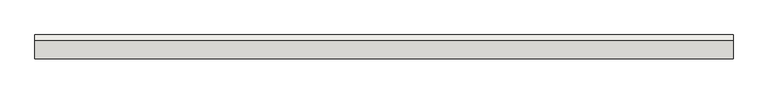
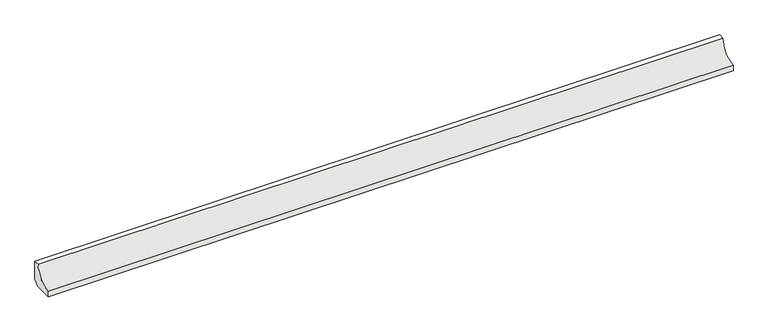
"""IFC4 building model written with IfcOpenShell, lengths in millimetres: slab geometry, ROSA GRES_188 : Pieza 188_Tao_Beige_Liso."""

import ifcopenshell
import ifcopenshell.guid

model = None  # the IFC model being written
_history = None  # IfcOwnerHistory: only IFC2X3 demands one
_inside = {}  # id of a spatial element -> (the spatial element, [elements in it])
_under = {}  # id of a project, library or spatial element -> (it, [spatial elements below it])
_declared = {}  # id of a project -> (the project, [libraries it declares])
_typed = {}  # id of a type object -> (the type object, [elements of that type])
_made_of = {}  # id of a material, layer set ... -> (it, [elements and type objects made of it])


def new_model(schema):
    """Start an empty IFC model of exactly this schema.

    Asked for "IFC4X3", IfcOpenShell would pick the latest addendum, in which some entities
    have other attributes; the version numbers below select the first issue.
    IFC2X3 requires an IfcOwnerHistory on every rooted entity: one is made here for all.
    """
    global model, _history
    if schema == "IFC4X3":
        model = ifcopenshell.file(schema_version=(4, 3, 0, 0))
    else:
        model = ifcopenshell.file(schema=schema)
    _inside.clear()
    _under.clear()
    _declared.clear()
    _typed.clear()
    _made_of.clear()
    _history = None
    if model.schema == "IFC2X3":
        org = make("IfcOrganization", Name="unknown")
        user = make(
            "IfcPersonAndOrganization",
            ThePerson=make("IfcPerson", FamilyName="unknown"),
            TheOrganization=org,
        )
        app = make(
            "IfcApplication",
            ApplicationDeveloper=org,
            Version="unknown",
            ApplicationFullName="unknown",
            ApplicationIdentifier="unknown",
        )
        _history = make(
            "IfcOwnerHistory",
            OwningUser=user,
            OwningApplication=app,
            ChangeAction="ADDED",
            CreationDate=0,
        )
    return model


def make(cls, **values):
    """One entity of the class cls with the attributes given. An attribute that is None is left unset."""
    return model.create_entity(
        cls, **{name: value for name, value in values.items() if value is not None}
    )


def rooted(cls, **values):
    """An entity with a GlobalId (a new one), such as an element, a storey or a relation."""
    return make(cls, GlobalId=ifcopenshell.guid.new(), OwnerHistory=_history, **values)


def si_unit(unit_type, name, prefix=None):
    """IfcSIUnit, for example si_unit("LENGTHUNIT", "METRE", prefix="MILLI")."""
    return make("IfcSIUnit", UnitType=unit_type, Prefix=prefix, Name=name)


def assignment(units):
    """IfcUnitAssignment: the units of a project."""
    return None if units is None else make("IfcUnitAssignment", Units=units)


def point(xyz):
    """IfcCartesianPoint."""
    return None if xyz is None else make("IfcCartesianPoint", Coordinates=xyz)


def direction(xyz):
    """IfcDirection."""
    return None if xyz is None else make("IfcDirection", DirectionRatios=xyz)


def frame(location, z_axis=None, x_axis=None):
    """IfcAxis2Placement3D, a coordinate frame: its origin and axes. An axis left out is left unset."""
    return make(
        "IfcAxis2Placement3D",
        Location=point(location),
        Axis=direction(z_axis),
        RefDirection=direction(x_axis),
    )


def frame_2d(location, x_axis=None):
    """IfcAxis2Placement2D, a coordinate frame in the plane: its origin and x axis."""
    return make(
        "IfcAxis2Placement2D", Location=point(location), RefDirection=direction(x_axis)
    )


def origin():
    """The frame at (0, 0, 0) with its axes left unset."""
    return frame((0.0, 0.0, 0.0))


def place(relative_to, where):
    """IfcLocalPlacement: puts the frame where relative to a parent placement (None: the world)."""
    return make(
        "IfcLocalPlacement", PlacementRelTo=relative_to, RelativePlacement=where
    )


def context(
    kind, dimensions, precision=None, world=None, true_north=None, identifier=None
):
    """IfcGeometricRepresentationContext, for example the 3D "Model" context."""
    return make(
        "IfcGeometricRepresentationContext",
        ContextIdentifier=identifier,
        ContextType=kind,
        CoordinateSpaceDimension=dimensions,
        Precision=precision,
        WorldCoordinateSystem=world,
        TrueNorth=true_north,
    )


def project(units=None, contexts=None):
    """IfcProject with its units and contexts."""
    return rooted(
        "IfcProject",
        Name="project",
        RepresentationContexts=contexts,
        UnitsInContext=assignment(units),
    )


def spatial(cls, under=None, at=None, **own):
    """A site, building, storey or space (cls), placed at a placement, below another one or the project."""
    s = rooted(cls, ObjectPlacement=at, **own)
    if under is not None:
        _under.setdefault(under.id(), (under, []))[1].append(s)
    return s


def polyline(points):
    """IfcPolyline through the points."""
    return make("IfcPolyline", Points=[point(p) for p in points])


def circle_curve(where, radius):
    """IfcCircle in the frame where."""
    return make("IfcCircle", Position=where, Radius=radius)


def trimmed(basis, trim1, trim2, sense, master):
    """IfcTrimmedCurve: the piece of a basis curve between two trims."""
    return make(
        "IfcTrimmedCurve",
        BasisCurve=basis,
        Trim1=trim1,
        Trim2=trim2,
        SenseAgreement=sense,
        MasterRepresentation=master,
    )


def segment(curve, same_sense, transition):
    """IfcCompositeCurveSegment."""
    return make(
        "IfcCompositeCurveSegment",
        Transition=transition,
        SameSense=same_sense,
        ParentCurve=curve,
    )


def composite_curve(segments, self_intersect=None):
    """IfcCompositeCurve: segments joined end to end."""
    return make("IfcCompositeCurve", Segments=segments, SelfIntersect=self_intersect)


def outline(outer, holes=None, kind="AREA"):
    """IfcArbitraryClosedProfileDef: a profile drawn as a closed curve; with holes, ...WithVoids."""
    if holes is None:
        return make("IfcArbitraryClosedProfileDef", ProfileType=kind, OuterCurve=outer)
    return make(
        "IfcArbitraryProfileDefWithVoids",
        ProfileType=kind,
        OuterCurve=outer,
        InnerCurves=holes,
    )


def extrude(swept, where, along, depth):
    """IfcExtrudedAreaSolid: the profile swept, set in the frame where, extruded along a direction by depth."""
    return make(
        "IfcExtrudedAreaSolid",
        SweptArea=swept,
        Position=where,
        ExtrudedDirection=direction(along),
        Depth=depth,
    )


def shape(context_of_items, identifier, shape_type, items):
    """IfcShapeRepresentation: the items that make up one representation, for example the "Body"."""
    return make(
        "IfcShapeRepresentation",
        ContextOfItems=context_of_items,
        RepresentationIdentifier=identifier,
        RepresentationType=shape_type,
        Items=items,
    )


def source(mapping_origin, context_of_items, identifier, shape_type, items):
    """IfcRepresentationMap: a shape defined once, which mapped items show again and again."""
    return make(
        "IfcRepresentationMap",
        MappingOrigin=mapping_origin,
        MappedRepresentation=shape(context_of_items, identifier, shape_type, items),
    )


def transform(
    local_origin,
    x_axis=None,
    y_axis=None,
    z_axis=None,
    scale=None,
    scale2=None,
    scale3=None,
    uniform=True,
):
    """IfcCartesianTransformationOperator3D, or its non-uniform kind. x_axis, y_axis, z_axis: its Axis1, 2, 3."""
    if uniform:
        return make(
            "IfcCartesianTransformationOperator3D",
            Axis1=direction(x_axis),
            Axis2=direction(y_axis),
            LocalOrigin=point(local_origin),
            Scale=scale,
            Axis3=direction(z_axis),
        )
    return make(
        "IfcCartesianTransformationOperator3DnonUniform",
        Axis1=direction(x_axis),
        Axis2=direction(y_axis),
        LocalOrigin=point(local_origin),
        Scale=scale,
        Axis3=direction(z_axis),
        Scale2=scale2,
        Scale3=scale3,
    )


def mapped(mapping_source, mapping_target):
    """IfcMappedItem: shows the shape of a source again, moved by a transform."""
    return make(
        "IfcMappedItem", MappingSource=mapping_source, MappingTarget=mapping_target
    )


def made_of(thing, what):
    """Note that an element or type object is made of a material, layer set ...; save() writes the relation."""
    if what is not None:
        _made_of.setdefault(what.id(), (what, []))[1].append(thing)
    return thing


def element(
    cls,
    number,
    at=None,
    inside=None,
    cuts=None,
    type_object=None,
    material=None,
    context=None,
    identifier="Body",
    shape_type=None,
    held_by="IfcProductDefinitionShape",
    body=None,
    shapes=None,
    **own,
):
    """One element of the class cls, such as IfcWall. Its Tag is "e" and its number.

    at: its placement. inside: the storey or other place that contains it. cuts: it is an
    opening in that element (IfcRelVoidsElement). A single representation is given by context,
    identifier, shape_type and body (its items); several are given by shapes. held_by: the class
    of the entity that holds the representations. save() writes the other relations.
    """
    e = rooted(cls, Tag="e%d" % number, ObjectPlacement=at, **own)
    if body is not None:
        shapes = [shape(context, identifier, shape_type, body)]
    if shapes is not None:
        e.Representation = make(held_by, Representations=shapes)
    if inside is not None:
        _inside.setdefault(inside.id(), (inside, []))[1].append(e)
    if cuts is not None:
        rooted(
            "IfcRelVoidsElement", RelatingBuildingElement=cuts, RelatedOpeningElement=e
        )
    if type_object is not None:
        _typed.setdefault(type_object.id(), (type_object, []))[1].append(e)
    return made_of(e, material)


def aggregate(whole, parts):
    """IfcRelAggregates: a whole, such as a stair, and the parts it consists of."""
    return rooted("IfcRelAggregates", RelatingObject=whole, RelatedObjects=parts)


def save(model, path):
    """Write the relations noted so far, then the file.

    IfcRelAggregates (storeys below a building ...), IfcRelContainedInSpatialStructure (elements
    in a storey), IfcRelDefinesByType, IfcRelAssociatesMaterial and IfcRelDeclares: one each for
    every whole, place, type object, material and project.
    """
    for whole, parts in _under.values():
        aggregate(whole, parts)
    for where, things in _inside.values():
        rooted(
            "IfcRelContainedInSpatialStructure",
            RelatedElements=things,
            RelatingStructure=where,
        )
    for kind, things in _typed.values():
        rooted("IfcRelDefinesByType", RelatedObjects=things, RelatingType=kind)
    for what, things in _made_of.values():
        rooted("IfcRelAssociatesMaterial", RelatedObjects=things, RelatingMaterial=what)
    for by, libraries in _declared.values():
        rooted("IfcRelDeclares", RelatingContext=by, RelatedDefinitions=libraries)
    model.write(path)


def slab_5e99094c(model_context):
    return source(origin(), model_context, "Body", "SweptSolid", [
        extrude(outline(composite_curve([segment(polyline([(0.0, 8.7114978), (-8.7114978, 0.0), (-40.0, 0.0), (-40.0, 9.9734114)]), True, "CONTINUOUS"), segment(trimmed(circle_curve(frame_2d((-39.9955547, 39.9955547)), 30.0221435), [point((-40.0, 9.9734114))], [point((-9.9734114, 40.0))], True, "CARTESIAN"), True, "CONTINUOUS"), segment(polyline([(-9.9734114, 40.0), (0.0, 40.0), (0.0, 8.7114978)]), True, "CONTINUOUS")], self_intersect=False)), frame((0.0, 0.0, 0.0), z_axis=(1.0, 0.0, 0.0), x_axis=(0.0, 1.0, 0.0)), (0.0, 0.0, 1.0), 1165.0),
    ])


if __name__ == "__main__":
    model = new_model("IFC4")
    model_context = context("Model", 3, world=origin())
    ifc_project = project(units=[si_unit("LENGTHUNIT", "METRE", prefix="MILLI")], contexts=[model_context])
    site = spatial("IfcSite", under=ifc_project)
    building = spatial("IfcBuilding", under=site)
    placement = place(None, origin())
    slab_shape = slab_5e99094c(model_context)
    element("IfcSlab", 1, ObjectType="ROSA GRES_188 : Pieza 188_Tao_Beige_Liso", at=placement, inside=building, context=model_context, shape_type="MappedRepresentation", body=[
        mapped(slab_shape, transform((0.0, 0.0, 0.0), x_axis=(1.0, 0.0, 0.0), y_axis=(0.0, 1.0, 0.0), z_axis=(0.0, 0.0, 1.0))),
    ])
    save(model, "model.ifc")
